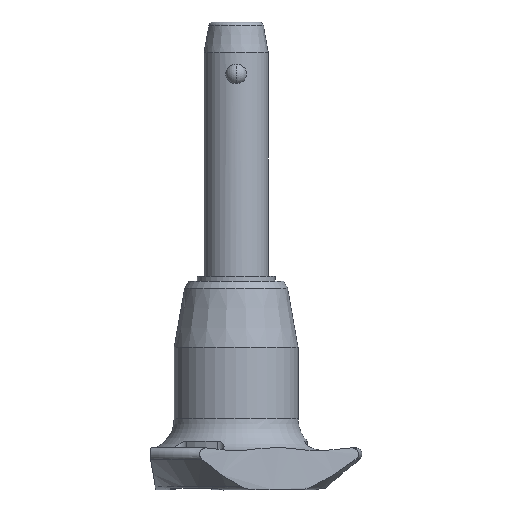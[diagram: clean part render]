
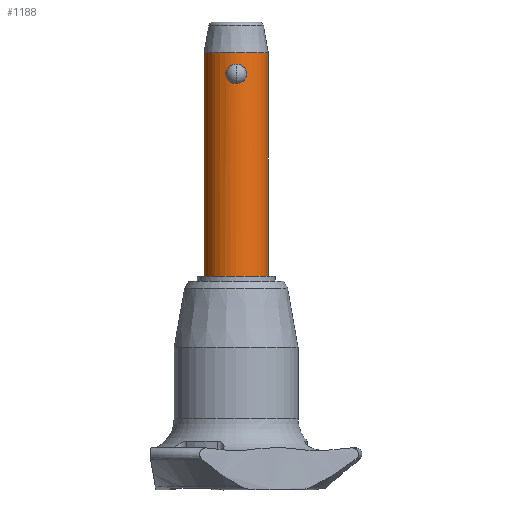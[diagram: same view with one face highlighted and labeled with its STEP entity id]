
A CAD part, front view. The second image highlights one B-rep face of the part: STEP entity #1188.
In plain terms, the highlighted cylindrical face has radius 5 mm (diameter 10 mm), a partial arc.
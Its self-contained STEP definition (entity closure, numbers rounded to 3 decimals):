
#60 = VERTEX_POINT ( 'NONE', #1784 ) ;
#84 = CIRCLE ( 'NONE', #440, 5. ) ;
#165 = CARTESIAN_POINT ( 'NONE',  ( 0., -5., 0. ) ) ;
#178 = CARTESIAN_POINT ( 'NONE',  ( 0.792, -4.938, 2.844 ) ) ;
#287 = LINE ( 'NONE', #757, #1309 ) ;
#310 = ORIENTED_EDGE ( 'NONE', *, *, #1595, .F. ) ;
#370 = CARTESIAN_POINT ( 'NONE',  ( -1.047, -4.89, 0.357 ) ) ;
#385 = CARTESIAN_POINT ( 'NONE',  ( 0.699, -4.952, 0.144 ) ) ;
#395 = CARTESIAN_POINT ( 'NONE',  ( -1.047, -4.89, 2.676 ) ) ;
#418 = CARTESIAN_POINT ( 'NONE',  ( 1.434, -4.79, 0.822 ) ) ;
#440 = AXIS2_PLACEMENT_3D ( 'NONE', #2049, #1999, #1847 ) ;
#572 = CARTESIAN_POINT ( 'NONE',  ( 1.272, -4.838, 2.47 ) ) ;
#587 = CARTESIAN_POINT ( 'NONE',  ( 0.966, -4.907, 2.738 ) ) ;
#594 = CARTESIAN_POINT ( 'NONE',  ( -1.594, -4.739, 1.312 ) ) ;
#623 = CARTESIAN_POINT ( 'NONE',  ( -1.519, -4.764, 1.013 ) ) ;
#626 = CARTESIAN_POINT ( 'NONE',  ( 1.56, -4.751, 1.103 ) ) ;
#717 = EDGE_CURVE ( 'NONE', #2435, #60, #2611, .T. ) ;
#757 = CARTESIAN_POINT ( 'NONE',  ( -5., 0., -30. ) ) ;
#777 = CARTESIAN_POINT ( 'NONE',  ( 1.047, -4.89, 0.356 ) ) ;
#793 = CARTESIAN_POINT ( 'NONE',  ( 1.048, -4.889, 2.676 ) ) ;
#801 = CARTESIAN_POINT ( 'NONE',  ( -0.965, -4.907, 2.738 ) ) ;
#806 = CARTESIAN_POINT ( 'NONE',  ( 1.395, -4.802, 2.301 ) ) ;
#816 = FACE_OUTER_BOUND ( 'NONE', #2130, .T. ) ;
#831 = CARTESIAN_POINT ( 'NONE',  ( -1.197, -4.855, 2.539 ) ) ;
#868 = AXIS2_PLACEMENT_3D ( 'NONE', #1347, #2207, #1147 ) ;
#907 = ORIENTED_EDGE ( 'NONE', *, *, #989, .T. ) ;
#921 = DIRECTION ( 'NONE',  ( 0., 0., 1. ) ) ;
#947 = CARTESIAN_POINT ( 'NONE',  ( -5., 0., -30. ) ) ;
#961 = VECTOR ( 'NONE', #921, 1000. ) ;
#973 = LINE ( 'NONE', #2615, #961 ) ;
#989 = EDGE_CURVE ( 'NONE', #2266, #2435, #973, .T. ) ;
#1024 = CARTESIAN_POINT ( 'NONE',  ( -1.394, -4.802, 0.731 ) ) ;
#1028 = CARTESIAN_POINT ( 'NONE',  ( 0.208, -5., 3.033 ) ) ;
#1032 = EDGE_CURVE ( 'NONE', #1326, #60, #287, .T. ) ;
#1039 = CARTESIAN_POINT ( 'NONE',  ( -1.56, -4.751, 1.931 ) ) ;
#1051 = CARTESIAN_POINT ( 'NONE',  ( 1.551, -4.753, 1.922 ) ) ;
#1057 = AXIS2_PLACEMENT_3D ( 'NONE', #1444, #2302, #2088 ) ;
#1064 = CARTESIAN_POINT ( 'NONE',  ( 1.604, -4.736, 1.619 ) ) ;
#1143 = CARTESIAN_POINT ( 'NONE',  ( 0., -5., 3.033 ) ) ;
#1147 = DIRECTION ( 'NONE',  ( 1., 0., 0. ) ) ;
#1168 = EDGE_CURVE ( 'NONE', #1952, #1617, #1701, .T. ) ;
#1188 = ADVANCED_FACE ( 'NONE', ( #816, #2718 ), #1657, .T. ) ;
#1211 = CARTESIAN_POINT ( 'NONE',  ( -0.699, -4.952, 0.145 ) ) ;
#1251 = CARTESIAN_POINT ( 'NONE',  ( -0.791, -4.938, 2.844 ) ) ;
#1309 = VECTOR ( 'NONE', #1971, 1000. ) ;
#1314 = CARTESIAN_POINT ( 'NONE',  ( 5., 0., 4.8 ) ) ;
#1326 = VERTEX_POINT ( 'NONE', #947 ) ;
#1347 = CARTESIAN_POINT ( 'NONE',  ( 0., 0., 4.8 ) ) ;
#1358 = ORIENTED_EDGE ( 'NONE', *, *, #1032, .F. ) ;
#1418 = CARTESIAN_POINT ( 'NONE',  ( 0., -5., 3.033 ) ) ;
#1444 = CARTESIAN_POINT ( 'NONE',  ( 0., 0., -30. ) ) ;
#1464 = CARTESIAN_POINT ( 'NONE',  ( 0.412, -4.987, 0.037 ) ) ;
#1474 = CARTESIAN_POINT ( 'NONE',  ( -0.205, -5., 0. ) ) ;
#1476 = CARTESIAN_POINT ( 'NONE',  ( 1.604, -4.736, 1.308 ) ) ;
#1595 = EDGE_CURVE ( 'NONE', #1617, #1952, #1718, .T. ) ;
#1597 = EDGE_LOOP ( 'NONE', ( #2230, #310 ) ) ;
#1617 = VERTEX_POINT ( 'NONE', #165 ) ;
#1627 = CARTESIAN_POINT ( 'NONE',  ( -0.208, -5., 3.033 ) ) ;
#1634 = CARTESIAN_POINT ( 'NONE',  ( 0.7, -4.952, 2.888 ) ) ;
#1657 = CYLINDRICAL_SURFACE ( 'NONE', #1057, 5. ) ;
#1701 = B_SPLINE_CURVE_WITH_KNOTS ( 'NONE', 3,
 ( #1418, #1627, #1897, #2741, #1251, #801, #395, #831, #2703, #2498, #2276, #1039, #2539, #2074, #594, #2293, #623, #1024, #2063, #370, #1871, #2729, #1211, #2510, #1474, #2320 ),
 .UNSPECIFIED., .F., .F.,
 ( 4, 2, 2, 2, 2, 2, 2, 2, 2, 2, 2, 2, 4 ),
 ( 0., 0.001, 0.001, 0.001, 0.002, 0.002, 0.002, 0.003, 0.003, 0.004, 0.004, 0.004, 0.005 ),
 .UNSPECIFIED. ) ;
#1718 = B_SPLINE_CURVE_WITH_KNOTS ( 'NONE', 3,
 ( #2722, #2732, #1464, #385, #1866, #2708, #777, #2337, #2297, #1877, #418, #626, #1476, #1064, #1900, #1051, #2080, #806, #572, #793, #587, #178, #1634, #2488, #1028, #2066 ),
 .UNSPECIFIED., .F., .F.,
 ( 4, 2, 2, 2, 2, 2, 2, 2, 2, 2, 2, 2, 4 ),
 ( 0.005, 0.006, 0.006, 0.006, 0.006, 0.007, 0.007, 0.008, 0.008, 0.009, 0.009, 0.009, 0.01 ),
 .UNSPECIFIED. ) ;
#1784 = CARTESIAN_POINT ( 'NONE',  ( -5., 0., 4.8 ) ) ;
#1843 = ORIENTED_EDGE ( 'NONE', *, *, #2544, .F. ) ;
#1847 = DIRECTION ( 'NONE',  ( 1., 0., 0. ) ) ;
#1866 = CARTESIAN_POINT ( 'NONE',  ( 0.792, -4.938, 0.19 ) ) ;
#1871 = CARTESIAN_POINT ( 'NONE',  ( -0.966, -4.907, 0.296 ) ) ;
#1877 = CARTESIAN_POINT ( 'NONE',  ( 1.384, -4.805, 0.735 ) ) ;
#1897 = CARTESIAN_POINT ( 'NONE',  ( -0.412, -4.987, 2.997 ) ) ;
#1900 = CARTESIAN_POINT ( 'NONE',  ( 1.594, -4.739, 1.721 ) ) ;
#1952 = VERTEX_POINT ( 'NONE', #1143 ) ;
#1971 = DIRECTION ( 'NONE',  ( 0., 0., 1. ) ) ;
#1999 = DIRECTION ( 'NONE',  ( 0., 0., -1. ) ) ;
#2049 = CARTESIAN_POINT ( 'NONE',  ( 0., 0., -30. ) ) ;
#2063 = CARTESIAN_POINT ( 'NONE',  ( -1.272, -4.838, 0.564 ) ) ;
#2066 = CARTESIAN_POINT ( 'NONE',  ( 0., -5., 3.033 ) ) ;
#2074 = CARTESIAN_POINT ( 'NONE',  ( -1.604, -4.736, 1.416 ) ) ;
#2080 = CARTESIAN_POINT ( 'NONE',  ( 1.519, -4.764, 2.021 ) ) ;
#2088 = DIRECTION ( 'NONE',  ( 1., 0., 0. ) ) ;
#2130 = EDGE_LOOP ( 'NONE', ( #1358, #1843, #907, #2239 ) ) ;
#2207 = DIRECTION ( 'NONE',  ( 0., 0., -1. ) ) ;
#2230 = ORIENTED_EDGE ( 'NONE', *, *, #1168, .F. ) ;
#2239 = ORIENTED_EDGE ( 'NONE', *, *, #717, .T. ) ;
#2266 = VERTEX_POINT ( 'NONE', #2400 ) ;
#2276 = CARTESIAN_POINT ( 'NONE',  ( -1.435, -4.79, 2.209 ) ) ;
#2293 = CARTESIAN_POINT ( 'NONE',  ( -1.551, -4.753, 1.11 ) ) ;
#2297 = CARTESIAN_POINT ( 'NONE',  ( 1.265, -4.838, 0.57 ) ) ;
#2302 = DIRECTION ( 'NONE',  ( 0., 0., 1. ) ) ;
#2320 = CARTESIAN_POINT ( 'NONE',  ( 0., -5., 0. ) ) ;
#2337 = CARTESIAN_POINT ( 'NONE',  ( 1.196, -4.855, 0.493 ) ) ;
#2400 = CARTESIAN_POINT ( 'NONE',  ( 5., 0., -30. ) ) ;
#2435 = VERTEX_POINT ( 'NONE', #1314 ) ;
#2488 = CARTESIAN_POINT ( 'NONE',  ( 0.412, -4.987, 2.996 ) ) ;
#2498 = CARTESIAN_POINT ( 'NONE',  ( -1.383, -4.805, 2.299 ) ) ;
#2510 = CARTESIAN_POINT ( 'NONE',  ( -0.412, -4.987, 0.037 ) ) ;
#2539 = CARTESIAN_POINT ( 'NONE',  ( -1.604, -4.736, 1.724 ) ) ;
#2544 = EDGE_CURVE ( 'NONE', #2266, #1326, #84, .T. ) ;
#2611 = CIRCLE ( 'NONE', #868, 5. ) ;
#2615 = CARTESIAN_POINT ( 'NONE',  ( 5., 0., -30. ) ) ;
#2703 = CARTESIAN_POINT ( 'NONE',  ( -1.264, -4.838, 2.464 ) ) ;
#2708 = CARTESIAN_POINT ( 'NONE',  ( 0.966, -4.907, 0.296 ) ) ;
#2718 = FACE_BOUND ( 'NONE', #1597, .T. ) ;
#2722 = CARTESIAN_POINT ( 'NONE',  ( 0., -5., 0. ) ) ;
#2729 = CARTESIAN_POINT ( 'NONE',  ( -0.792, -4.938, 0.19 ) ) ;
#2732 = CARTESIAN_POINT ( 'NONE',  ( 0.205, -5., 0. ) ) ;
#2741 = CARTESIAN_POINT ( 'NONE',  ( -0.7, -4.952, 2.888 ) ) ;
